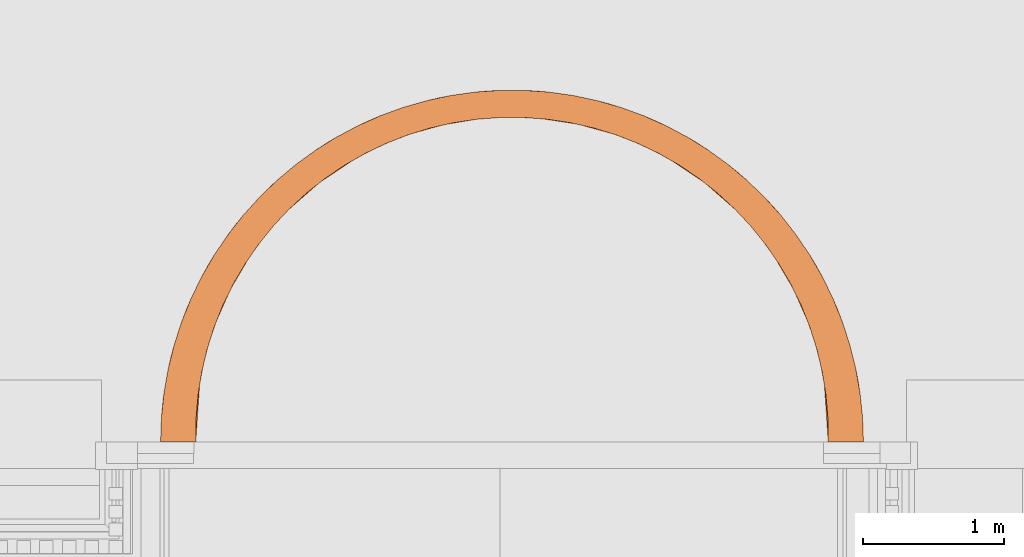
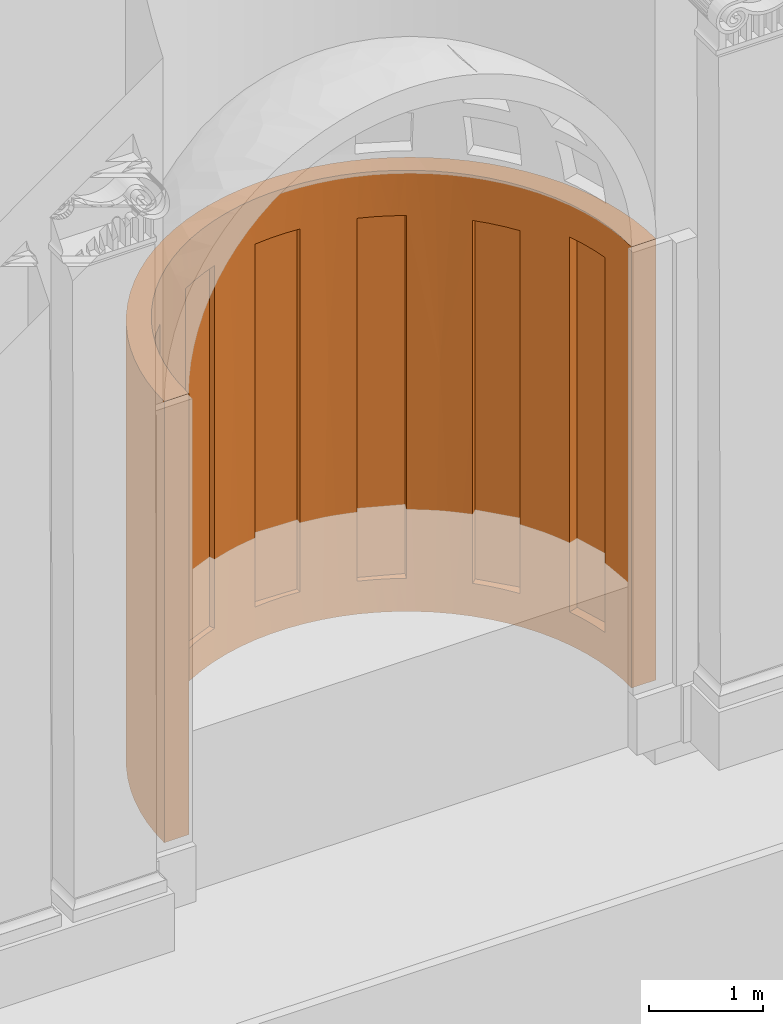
# One storey, part 31 of 44: 1 proxy.
"""IFC2X3 building model written with IfcOpenShell, lengths in metres."""

import ifcopenshell
import ifcopenshell.guid

model = None  # the IFC model being written
_history = None  # IfcOwnerHistory: only IFC2X3 demands one
_inside = {}  # id of a spatial element -> (the spatial element, [elements in it])
_under = {}  # id of a project, library or spatial element -> (it, [spatial elements below it])
_declared = {}  # id of a project -> (the project, [libraries it declares])
_typed = {}  # id of a type object -> (the type object, [elements of that type])
_made_of = {}  # id of a material, layer set ... -> (it, [elements and type objects made of it])


def new_model(schema):
    """Start an empty IFC model of exactly this schema.

    Asked for "IFC4X3", IfcOpenShell would pick the latest addendum, in which some entities
    have other attributes; the version numbers below select the first issue.
    IFC2X3 requires an IfcOwnerHistory on every rooted entity: one is made here for all.
    """
    global model, _history
    if schema == "IFC4X3":
        model = ifcopenshell.file(schema_version=(4, 3, 0, 0))
    else:
        model = ifcopenshell.file(schema=schema)
    _inside.clear()
    _under.clear()
    _declared.clear()
    _typed.clear()
    _made_of.clear()
    _history = None
    if model.schema == "IFC2X3":
        org = make("IfcOrganization", Name="unknown")
        user = make(
            "IfcPersonAndOrganization",
            ThePerson=make("IfcPerson", FamilyName="unknown"),
            TheOrganization=org,
        )
        app = make(
            "IfcApplication",
            ApplicationDeveloper=org,
            Version="unknown",
            ApplicationFullName="unknown",
            ApplicationIdentifier="unknown",
        )
        _history = make(
            "IfcOwnerHistory",
            OwningUser=user,
            OwningApplication=app,
            ChangeAction="ADDED",
            CreationDate=0,
        )
    return model


def make(cls, **values):
    """One entity of the class cls with the attributes given. An attribute that is None is left unset."""
    return model.create_entity(
        cls, **{name: value for name, value in values.items() if value is not None}
    )


def entity(cls, *values):
    """Any entity or typed value of the class cls, its attributes in the order of the schema. None: left unset."""
    e = model.create_entity(cls)
    for i, value in enumerate(values):
        if value is not None:
            e[i] = value
    return e


def rooted(cls, **values):
    """An entity with a GlobalId (a new one), such as an element, a storey or a relation."""
    return make(cls, GlobalId=ifcopenshell.guid.new(), OwnerHistory=_history, **values)


def si_unit(unit_type, name, prefix=None):
    """IfcSIUnit, for example si_unit("LENGTHUNIT", "METRE", prefix="MILLI")."""
    return make("IfcSIUnit", UnitType=unit_type, Prefix=prefix, Name=name)


def converted_unit(unit_type, name, factor, base, dimensions=None, offset=None):
    """IfcConversionBasedUnit, such as the inch: factor (a typed value) times the base unit."""
    return make(
        "IfcConversionBasedUnit"
        if offset is None
        else "IfcConversionBasedUnitWithOffset",
        ConversionOffset=offset,
        Dimensions=None
        if dimensions is None
        else entity("IfcDimensionalExponents", *dimensions),
        UnitType=unit_type,
        Name=name,
        ConversionFactor=make(
            "IfcMeasureWithUnit", ValueComponent=factor, UnitComponent=base
        ),
    )


def derived_unit(unit_type, elements):
    """IfcDerivedUnit: a product of units, each with its exponent."""
    return make(
        "IfcDerivedUnit",
        Elements=[
            make("IfcDerivedUnitElement", Unit=unit, Exponent=power)
            for unit, power in elements
        ],
        UnitType=unit_type,
    )


def assignment(units):
    """IfcUnitAssignment: the units of a project."""
    return None if units is None else make("IfcUnitAssignment", Units=units)


def point(xyz):
    """IfcCartesianPoint."""
    return None if xyz is None else make("IfcCartesianPoint", Coordinates=xyz)


def direction(xyz):
    """IfcDirection."""
    return None if xyz is None else make("IfcDirection", DirectionRatios=xyz)


def frame(location, z_axis=None, x_axis=None):
    """IfcAxis2Placement3D, a coordinate frame: its origin and axes. An axis left out is left unset."""
    return make(
        "IfcAxis2Placement3D",
        Location=point(location),
        Axis=direction(z_axis),
        RefDirection=direction(x_axis),
    )


def origin():
    """The frame at (0, 0, 0) with its axes left unset."""
    return frame((0.0, 0.0, 0.0))


def place(relative_to, where):
    """IfcLocalPlacement: puts the frame where relative to a parent placement (None: the world)."""
    return make(
        "IfcLocalPlacement", PlacementRelTo=relative_to, RelativePlacement=where
    )


def context(
    kind, dimensions, precision=None, world=None, true_north=None, identifier=None
):
    """IfcGeometricRepresentationContext, for example the 3D "Model" context."""
    return make(
        "IfcGeometricRepresentationContext",
        ContextIdentifier=identifier,
        ContextType=kind,
        CoordinateSpaceDimension=dimensions,
        Precision=precision,
        WorldCoordinateSystem=world,
        TrueNorth=true_north,
    )


def subcontext(parent, identifier, kind, view, scale=None):
    """IfcGeometricRepresentationSubContext, for example "Body" below "Model"."""
    return make(
        "IfcGeometricRepresentationSubContext",
        ContextIdentifier=identifier,
        ContextType=kind,
        ParentContext=parent,
        TargetScale=scale,
        TargetView=view,
    )


def project(units=None, contexts=None):
    """IfcProject with its units and contexts."""
    return rooted(
        "IfcProject",
        Name="project",
        RepresentationContexts=contexts,
        UnitsInContext=assignment(units),
    )


def spatial(cls, under=None, at=None, **own):
    """A site, building, storey or space (cls), placed at a placement, below another one or the project."""
    s = rooted(cls, ObjectPlacement=at, **own)
    if under is not None:
        _under.setdefault(under.id(), (under, []))[1].append(s)
    return s


def faces_of(points, faces, orient=None, outer=None):
    """IfcFace entities. A face is a list of loops; a loop is a list of indices into points, from 0.

    orient and outer hold one flag for each loop. By default every Orientation is true, the
    first loop of a face is its IfcFaceOuterBound and the others are IfcFaceBound.
    """
    made = []
    for i, loops in enumerate(faces):
        bounds = []
        for j, loop in enumerate(loops):
            is_outer = j == 0 if outer is None else outer[i][j]
            bounds.append(
                make(
                    "IfcFaceOuterBound" if is_outer else "IfcFaceBound",
                    Bound=make("IfcPolyLoop", Polygon=[points[k] for k in loop]),
                    Orientation=True if orient is None else orient[i][j],
                )
            )
        made.append(make("IfcFace", Bounds=bounds))
    return made


def faceted_brep(points, faces, orient=None, outer=None, voids=None):
    """IfcFacetedBrep: a solid bounded by flat faces; with voids (closed shells), ...WithVoids."""
    shared = [point(p) for p in points]
    hull = make("IfcClosedShell", CfsFaces=faces_of(shared, faces, orient, outer))
    if voids is None:
        return make("IfcFacetedBrep", Outer=hull)
    return make(
        "IfcFacetedBrepWithVoids",
        Outer=hull,
        Voids=[
            make(cls, CfsFaces=faces_of(shared, fs, o, b)) for cls, fs, o, b in voids
        ],
    )


def shape(context_of_items, identifier, shape_type, items):
    """IfcShapeRepresentation: the items that make up one representation, for example the "Body"."""
    return make(
        "IfcShapeRepresentation",
        ContextOfItems=context_of_items,
        RepresentationIdentifier=identifier,
        RepresentationType=shape_type,
        Items=items,
    )


def material(Name=None, Category=None):
    """IfcMaterial."""
    return make("IfcMaterial", Name=Name, Category=Category)


def made_of(thing, what):
    """Note that an element or type object is made of a material, layer set ...; save() writes the relation."""
    if what is not None:
        _made_of.setdefault(what.id(), (what, []))[1].append(thing)
    return thing


def element(
    cls,
    number,
    at=None,
    inside=None,
    cuts=None,
    type_object=None,
    material=None,
    context=None,
    identifier="Body",
    shape_type=None,
    held_by="IfcProductDefinitionShape",
    body=None,
    shapes=None,
    **own,
):
    """One element of the class cls, such as IfcWall. Its Tag is "e" and its number.

    at: its placement. inside: the storey or other place that contains it. cuts: it is an
    opening in that element (IfcRelVoidsElement). A single representation is given by context,
    identifier, shape_type and body (its items); several are given by shapes. held_by: the class
    of the entity that holds the representations. save() writes the other relations.
    """
    e = rooted(cls, Tag="e%d" % number, ObjectPlacement=at, **own)
    if body is not None:
        shapes = [shape(context, identifier, shape_type, body)]
    if shapes is not None:
        e.Representation = make(held_by, Representations=shapes)
    if inside is not None:
        _inside.setdefault(inside.id(), (inside, []))[1].append(e)
    if cuts is not None:
        rooted(
            "IfcRelVoidsElement", RelatingBuildingElement=cuts, RelatedOpeningElement=e
        )
    if type_object is not None:
        _typed.setdefault(type_object.id(), (type_object, []))[1].append(e)
    return made_of(e, material)


def aggregate(whole, parts):
    """IfcRelAggregates: a whole, such as a stair, and the parts it consists of."""
    return rooted("IfcRelAggregates", RelatingObject=whole, RelatedObjects=parts)


def save(model, path):
    """Write the relations noted so far, then the file.

    IfcRelAggregates (storeys below a building ...), IfcRelContainedInSpatialStructure (elements
    in a storey), IfcRelDefinesByType, IfcRelAssociatesMaterial and IfcRelDeclares: one each for
    every whole, place, type object, material and project.
    """
    for whole, parts in _under.values():
        aggregate(whole, parts)
    for where, things in _inside.values():
        rooted(
            "IfcRelContainedInSpatialStructure",
            RelatedElements=things,
            RelatingStructure=where,
        )
    for kind, things in _typed.values():
        rooted("IfcRelDefinesByType", RelatedObjects=things, RelatingType=kind)
    for what, things in _made_of.values():
        rooted("IfcRelAssociatesMaterial", RelatedObjects=things, RelatingMaterial=what)
    for by, libraries in _declared.values():
        rooted("IfcRelDeclares", RelatingContext=by, RelatedDefinitions=libraries)
    model.write(path)


model = new_model("IFC2X3")

# Units and contexts
model_context = context("Model", 3, precision=1e-05, world=origin(), true_north=direction((6.12303176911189e-17, 1.0)))
body_context = subcontext(model_context, "Body", "Model", "MODEL_VIEW")
ifc_project = project(units=[si_unit("LENGTHUNIT", "METRE"), si_unit("AREAUNIT", "SQUARE_METRE"), si_unit("VOLUMEUNIT", "CUBIC_METRE"), converted_unit("PLANEANGLEUNIT", "DEGREE", entity("IfcRatioMeasure", 0.0174532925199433), si_unit("PLANEANGLEUNIT", "RADIAN"), dimensions=[0, 0, 0, 0, 0, 0, 0]), si_unit("MASSUNIT", "GRAM", prefix="KILO"), derived_unit("MASSDENSITYUNIT", [(si_unit("MASSUNIT", "GRAM", prefix="KILO"), 1), (si_unit("LENGTHUNIT", "METRE"), -3)]), si_unit("TIMEUNIT", "SECOND"), si_unit("FREQUENCYUNIT", "HERTZ"), si_unit("THERMODYNAMICTEMPERATUREUNIT", "DEGREE_CELSIUS"), derived_unit("THERMALTRANSMITTANCEUNIT", [(si_unit("MASSUNIT", "GRAM", prefix="KILO"), 1), (si_unit("THERMODYNAMICTEMPERATUREUNIT", "KELVIN"), -1), (si_unit("TIMEUNIT", "SECOND"), -3)]), derived_unit("VOLUMETRICFLOWRATEUNIT", [(si_unit("LENGTHUNIT", "METRE"), 3), (si_unit("TIMEUNIT", "SECOND"), -1)]), si_unit("ELECTRICCURRENTUNIT", "AMPERE"), si_unit("ELECTRICVOLTAGEUNIT", "VOLT"), si_unit("POWERUNIT", "WATT"), si_unit("FORCEUNIT", "NEWTON", prefix="KILO"), si_unit("ILLUMINANCEUNIT", "LUX"), si_unit("LUMINOUSFLUXUNIT", "LUMEN"), si_unit("LUMINOUSINTENSITYUNIT", "CANDELA"), derived_unit("USERDEFINED", [(si_unit("MASSUNIT", "GRAM", prefix="KILO"), -1), (si_unit("LENGTHUNIT", "METRE"), -2), (si_unit("TIMEUNIT", "SECOND"), 3), (si_unit("LUMINOUSFLUXUNIT", "LUMEN"), 1)]), derived_unit("LINEARVELOCITYUNIT", [(si_unit("LENGTHUNIT", "METRE"), 1), (si_unit("TIMEUNIT", "SECOND"), -1)]), si_unit("PRESSUREUNIT", "PASCAL"), derived_unit("USERDEFINED", [(si_unit("LENGTHUNIT", "METRE"), -2), (si_unit("MASSUNIT", "GRAM", prefix="KILO"), 1), (si_unit("TIMEUNIT", "SECOND"), -2)])], contexts=[model_context])

# Site, building, storey
site_placement = place(None, origin())
site = spatial("IfcSite", under=ifc_project, at=site_placement, Name="Default", CompositionType="ELEMENT")
building_placement = place(site_placement, origin())
building = spatial("IfcBuilding", under=site, at=building_placement, CompositionType="ELEMENT")
storey_placement = place(building_placement, origin())
storey = spatial("IfcBuildingStorey", under=building, at=storey_placement, Name="Livello 1", CompositionType="ELEMENT", Elevation=0.0)

# Proxy
ifc_material = material(Name="Travertino")
proxy_placement = place(storey_placement, frame((-2.49178737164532, 1.4517774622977, 13.9835840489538)))
element("IfcBuildingElementProxy", 1, at=proxy_placement, inside=storey, material=ifc_material, Name="Stratigrafia", context=body_context, shape_type="Brep", body=[
    faceted_brep([(4.9957136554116, 0.176135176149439, 0.0), (5.00159122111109, 0.0015952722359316, 0.0), (4.75080310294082, 0.00159527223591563, 0.0), (4.74902433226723, 0.16870656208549, 0.0), (4.7348466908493, 0.335224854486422, 0.0), (4.72159754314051, 0.41772816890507, 0.0), (4.7083483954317, 0.500231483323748, 0.0), (4.6890120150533, 0.581523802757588, 0.0), (4.66967563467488, 0.662816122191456, 0.0), (4.64435869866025, 0.742448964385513, 0.0), (4.61904176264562, 0.822081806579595, 0.0), (4.58788394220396, 0.899615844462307, 0.0), (4.55672612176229, 0.977149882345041, 0.0), (4.48307250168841, 1.12716485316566, 0.0), (4.39848724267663, 1.27129910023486, 0.0), (4.35096211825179, 1.34002827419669, 0.0), (4.30343699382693, 1.40875744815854, 0.0), (4.25094156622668, 1.47376950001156, 0.0), (4.19844613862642, 1.5387815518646, 0.0), (4.08409390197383, 1.66065408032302, 0.0), (3.961011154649, 1.77370267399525, 0.0), (3.82987693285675, 1.87730365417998, 0.0), (3.69141469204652, 1.97088546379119, 0.0), (3.61890150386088, 2.01240864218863, 0.0), (3.54638831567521, 2.05393182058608, 0.0), (3.47099310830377, 2.08995819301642, 0.0), (3.3955979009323, 2.12598456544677, 0.0), (3.31773662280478, 2.1563153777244, 0.0), (3.23987534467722, 2.18664619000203, 0.0), (3.08007975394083, 2.23558202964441, 0.0), (2.91709270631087, 2.27252210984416, 0.0), (2.75181338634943, 2.29726263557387, 0.0), (2.66848350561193, 2.30346487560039, 0.0), (2.5851536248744, 2.30966711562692, 0.0), (2.50159324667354, 2.30966711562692, 0.0), (2.41803286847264, 2.30966711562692, 0.0), (2.33470298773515, 2.3034648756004, 0.0), (2.25137310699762, 2.29726263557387, 0.0), (2.08609378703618, 2.27252210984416, 0.0), (1.92310673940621, 2.23558202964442, 0.0), (1.76331114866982, 2.18664619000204, 0.0), (1.6854498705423, 2.15631537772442, 0.0), (1.60758859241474, 2.12598456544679, 0.0), (1.5321933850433, 2.08995819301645, 0.0), (1.45679817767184, 2.0539318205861, 0.0), (1.38428498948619, 2.01240864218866, 0.0), (1.31177180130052, 1.97088546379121, 0.0), (1.1733095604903, 1.87730365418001, 0.0), (1.04217533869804, 1.77370267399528, 0.0), (0.919092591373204, 1.66065408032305, 0.0), (0.804740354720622, 1.53878155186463, 0.0), (0.752244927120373, 1.47376950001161, 0.0), (0.699749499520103, 1.40875744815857, 0.0), (0.652224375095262, 1.34002827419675, 0.0), (0.604699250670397, 1.2712991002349, 0.0), (0.520113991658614, 1.12716485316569, 0.0), (0.446460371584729, 0.977149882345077, 0.0), (0.415302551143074, 0.899615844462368, 0.0), (0.384144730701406, 0.822081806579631, 0.0), (0.358827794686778, 0.742448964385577, 0.0), (0.333510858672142, 0.662816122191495, 0.0), (0.314174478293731, 0.581523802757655, 0.0), (0.294838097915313, 0.500231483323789, 0.0), (0.281588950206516, 0.417728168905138, 0.0), (0.268339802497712, 0.33522485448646, 0.0), (0.25416216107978, 0.16870656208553, 0.0), (0.252383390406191, 0.00159527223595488, 0.0), (0.0015952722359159, 0.00159527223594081, 0.0), (0.00747283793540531, 0.176135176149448, 0.0), (0.0255212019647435, 0.349838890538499, 0.0), (0.0556522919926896, 0.521858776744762, 0.0), (0.0977190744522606, 0.691355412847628, 0.0), (0.15151627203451, 0.857501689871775, 0.0), (0.216781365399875, 1.01948684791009, 0.0), (0.293195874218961, 1.17652043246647, 0.0), (0.380386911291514, 1.32783615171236, 0.0), (0.477929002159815, 1.47269561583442, 0.0), (0.585346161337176, 1.61039194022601, 0.0), (0.702114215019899, 1.74025319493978, 0.0), (0.827663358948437, 1.86164568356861, 0.0), (0.961380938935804, 1.97397703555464, 0.0), (1.10261444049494, 2.07669909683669, 0.0), (1.25067467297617, 2.16931060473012, 0.0), (1.40483913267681, 2.2513596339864, 0.0), (1.56435552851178, 2.32244580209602, 0.0), (1.72844545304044, 2.38222222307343, 0.0), (1.89630818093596, 2.43039720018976, 0.0), (2.06712457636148, 2.46673564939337, 0.0), (2.24006109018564, 2.49106024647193, 0.0), (2.41427382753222, 2.50325229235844, 0.0), (2.5889126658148, 2.50325229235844, 0.0), (2.76312540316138, 2.49106024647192, 0.0), (2.93606191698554, 2.46673564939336, 0.0), (3.10687831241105, 2.43039720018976, 0.0), (3.27474104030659, 2.38222222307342, 0.0), (3.43883096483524, 2.32244580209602, 0.0), (3.59834736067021, 2.25135963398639, 0.0), (3.75251182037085, 2.16931060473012, 0.0), (3.90057205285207, 2.07669909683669, 0.0), (4.04180555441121, 1.97397703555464, 0.0), (4.17552313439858, 1.8616456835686, 0.0), (4.30107227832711, 1.74025319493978, 0.0), (4.41784033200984, 1.610391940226, 0.0), (4.5252574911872, 1.47269561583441, 0.0), (4.6227995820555, 1.32783615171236, 0.0), (4.70999061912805, 1.17652043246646, 0.0), (4.78640512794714, 1.01948684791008, 0.0), (4.8516702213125, 0.857501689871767, 0.0), (4.90546741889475, 0.69135541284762, 0.0), (4.94753420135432, 0.521858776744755, 0.0), (4.97766529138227, 0.349838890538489, 0.0), (0.00747283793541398, 0.176135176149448, 4.74095236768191), (0.00159527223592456, 0.00159527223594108, 4.74095236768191), (0.2523833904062, 0.00159527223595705, 4.74095236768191), (0.254162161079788, 0.16870656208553, 4.74095236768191), (0.26833980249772, 0.33522485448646, 4.74095236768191), (0.281588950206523, 0.417728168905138, 4.74095236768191), (0.294838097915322, 0.500231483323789, 4.74095236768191), (0.314174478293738, 0.581523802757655, 4.74095236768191), (0.333510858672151, 0.662816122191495, 4.74095236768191), (0.358827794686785, 0.742448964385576, 4.74095236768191), (0.384144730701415, 0.822081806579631, 4.74095236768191), (0.446460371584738, 0.977149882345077, 4.74095236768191), (0.520113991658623, 1.12716485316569, 4.74095236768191), (0.604699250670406, 1.2712991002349, 4.74095236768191), (0.652224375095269, 1.34002827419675, 4.74095236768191), (0.699749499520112, 1.40875744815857, 4.74095236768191), (0.80474035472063, 1.53878155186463, 4.74095236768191), (0.919092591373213, 1.66065408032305, 4.74095236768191), (1.04217533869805, 1.77370267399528, 4.74095236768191), (1.17330956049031, 1.87730365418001, 4.74095236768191), (1.31177180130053, 1.97088546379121, 4.74095236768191), (1.3842849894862, 2.01240864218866, 4.74095236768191), (1.45679817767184, 2.0539318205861, 4.74095236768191), (1.53219338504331, 2.08995819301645, 4.74095236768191), (1.60758859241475, 2.12598456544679, 4.74095236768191), (1.6854498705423, 2.15631537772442, 4.74095236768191), (1.76331114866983, 2.18664619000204, 4.74095236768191), (1.92310673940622, 2.23558202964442, 4.74095236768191), (2.08609378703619, 2.27252210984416, 4.74095236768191), (2.25137310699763, 2.29726263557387, 4.74095236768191), (2.41803286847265, 2.30966711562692, 4.74095236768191), (2.58515362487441, 2.30966711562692, 4.74095236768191), (2.66848350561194, 2.30346487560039, 4.74095236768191), (2.75181338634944, 2.29726263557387, 4.74095236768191), (2.91709270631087, 2.27252210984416, 4.74095236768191), (3.08007975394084, 2.23558202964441, 4.7409523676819), (3.23987534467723, 2.18664619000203, 4.7409523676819), (3.31773662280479, 2.1563153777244, 4.74095236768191), (3.39559790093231, 2.12598456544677, 4.7409523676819), (3.47099310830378, 2.08995819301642, 4.7409523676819), (3.54638831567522, 2.05393182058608, 4.7409523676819), (3.61890150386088, 2.01240864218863, 4.7409523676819), (3.69141469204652, 1.97088546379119, 4.7409523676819), (3.82987693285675, 1.87730365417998, 4.7409523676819), (3.96101115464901, 1.77370267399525, 4.7409523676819), (4.08409390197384, 1.66065408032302, 4.7409523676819), (4.19844613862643, 1.5387815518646, 4.7409523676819), (4.30343699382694, 1.40875744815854, 4.7409523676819), (4.3509621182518, 1.34002827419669, 4.7409523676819), (4.39848724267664, 1.27129910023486, 4.7409523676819), (4.48307250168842, 1.12716485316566, 4.7409523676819), (4.5567261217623, 0.977149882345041, 4.7409523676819), (4.58788394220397, 0.899615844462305, 4.7409523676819), (4.61904176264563, 0.822081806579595, 4.7409523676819), (4.64435869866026, 0.742448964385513, 4.7409523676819), (4.66967563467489, 0.662816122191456, 4.7409523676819), (4.6890120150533, 0.581523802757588, 4.7409523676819), (4.70834839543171, 0.500231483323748, 4.7409523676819), (4.72159754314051, 0.417728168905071, 4.7409523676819), (4.73484669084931, 0.335224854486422, 4.7409523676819), (4.74902433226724, 0.16870656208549, 4.7409523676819), (4.75080310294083, 0.0015952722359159, 4.7409523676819), (5.0015912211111, 0.00159527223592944, 4.7409523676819), (4.99571365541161, 0.176135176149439, 4.7409523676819), (4.97766529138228, 0.349838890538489, 4.7409523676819), (4.94753420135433, 0.521858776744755, 4.7409523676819), (4.90546741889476, 0.69135541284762, 4.7409523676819), (4.85167022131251, 0.857501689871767, 4.7409523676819), (4.78640512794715, 1.01948684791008, 4.7409523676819), (4.70999061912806, 1.17652043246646, 4.7409523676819), (4.62279958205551, 1.32783615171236, 4.7409523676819), (4.52525749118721, 1.47269561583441, 4.7409523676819), (4.41784033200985, 1.610391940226, 4.7409523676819), (4.30107227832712, 1.74025319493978, 4.7409523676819), (4.17552313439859, 1.8616456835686, 4.7409523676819), (4.04180555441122, 1.97397703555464, 4.7409523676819), (3.90057205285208, 2.07669909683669, 4.7409523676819), (3.75251182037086, 2.16931060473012, 4.7409523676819), (3.59834736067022, 2.25135963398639, 4.7409523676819), (3.43883096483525, 2.32244580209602, 4.7409523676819), (3.2747410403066, 2.38222222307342, 4.7409523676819), (3.10687831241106, 2.43039720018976, 4.7409523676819), (2.93606191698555, 2.46673564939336, 4.74095236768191), (2.76312540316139, 2.49106024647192, 4.74095236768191), (2.58891266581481, 2.50325229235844, 4.74095236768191), (2.41427382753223, 2.50325229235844, 4.74095236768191), (2.24006109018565, 2.49106024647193, 4.74095236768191), (2.06712457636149, 2.46673564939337, 4.74095236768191), (1.89630818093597, 2.43039720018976, 4.74095236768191), (1.72844545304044, 2.38222222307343, 4.74095236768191), (1.56435552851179, 2.32244580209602, 4.74095236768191), (1.40483913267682, 2.2513596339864, 4.74095236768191), (1.25067467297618, 2.16931060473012, 4.74095236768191), (1.10261444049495, 2.07669909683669, 4.74095236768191), (0.961380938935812, 1.97397703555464, 4.74095236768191), (0.827663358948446, 1.86164568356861, 4.74095236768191), (0.702114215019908, 1.74025319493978, 4.74095236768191), (0.585346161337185, 1.61039194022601, 4.74095236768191), (0.477929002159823, 1.47269561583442, 4.74095236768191), (0.380386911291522, 1.32783615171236, 4.74095236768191), (0.293195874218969, 1.17652043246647, 4.74095236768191), (0.216781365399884, 1.01948684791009, 4.74095236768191), (0.151516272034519, 0.857501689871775, 4.74095236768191), (0.0977190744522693, 0.691355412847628, 4.74095236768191), (0.0556522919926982, 0.521858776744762, 4.74095236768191), (0.0255212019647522, 0.349838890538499, 4.74095236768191), (5.0015912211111, 0.00159527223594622, 2.99510013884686), (4.75080310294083, 0.00159527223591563, 3.31252170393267), (0.252383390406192, 0.00159527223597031, 1.42843066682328), (0.00159527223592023, 0.00159527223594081, 1.74585223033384), (4.72284944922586, 0.419717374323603, 2.36941973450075), (4.72284944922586, 0.419717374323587, 0.354627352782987), (4.72284944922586, 0.419717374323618, 4.38421211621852), (0.280337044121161, 0.419717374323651, 0.354627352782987), (0.294520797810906, 0.492330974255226, 0.354627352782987), (4.70866569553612, 0.492330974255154, 0.354627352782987), (0.308704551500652, 0.564944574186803, 0.354627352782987), (0.32763050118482, 0.636468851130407, 0.354627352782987), (0.393729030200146, 0.84824434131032, 0.354627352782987), (0.370142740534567, 0.778118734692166, 0.354627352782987), (4.63304375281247, 0.7781187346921, 0.354627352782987), (4.60945746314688, 0.848244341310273, 0.354627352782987), (0.717079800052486, 1.43162497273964, 0.354627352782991), (0.6738057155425, 1.37124778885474, 0.354627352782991), (0.811408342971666, 1.54640445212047, 0.354627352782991), (0.764244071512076, 1.48901471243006, 0.354627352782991), (4.37265486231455, 1.31087060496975, 0.354627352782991), (4.37265486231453, 1.31087060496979, 4.25454915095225), (4.50388827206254, 1.08753045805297, 2.84561125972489), (1.38035585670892, 2.01194394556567, 0.354627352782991), (1.44473175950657, 2.04621921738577, 0.354627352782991), (1.50910766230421, 2.08049448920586, 0.354627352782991), (1.57556912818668, 2.11052654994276, 0.354627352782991), (4.67555599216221, 0.636468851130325, 0.354627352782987), (0.294520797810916, 0.492330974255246, 4.25454915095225), (0.308704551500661, 0.564944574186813, 4.25454915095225), (4.69448194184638, 0.564944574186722, 0.354627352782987), (0.327630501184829, 0.636468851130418, 4.25454915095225), (0.346556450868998, 0.707993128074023, 4.25454915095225), (4.65663004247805, 0.707993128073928, 0.354627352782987), (3.86817883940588, 1.84865985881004, 2.64278178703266), (4.09008050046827, 1.65470861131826, 4.25454915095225), (4.238942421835, 1.48901471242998, 0.354627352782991), (4.19177815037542, 1.5464044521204, 0.354627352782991), (1.77856601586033, 2.19188387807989, 0.354627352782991), (1.71029830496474, 2.16622124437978, 0.354627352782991), (4.32938077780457, 1.37124778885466, 0.354627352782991), (4.28610669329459, 1.43162497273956, 0.354627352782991), (3.22462047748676, 2.19188387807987, 2.30458825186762), (2.96957426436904, 2.26201317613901, 2.82473220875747), (4.6094574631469, 0.848244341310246, 4.38421211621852), (4.60945746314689, 0.848244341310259, 2.36941973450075), (2.40153836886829, 2.3089935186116, 0.354627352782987), (4.09008050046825, 1.65470861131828, 0.354627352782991), (2.55492325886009, 2.3105871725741, 0.354627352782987), (3.62283063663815, 2.01194394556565, 4.25454915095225), (3.62283063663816, 2.01194394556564, 2.30458825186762), (2.70806028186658, 2.30172622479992, 0.354627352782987), (3.36115589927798, 2.14055861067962, 0.354627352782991), (4.09008050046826, 1.65470861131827, 2.30458825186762), (3.42761736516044, 2.11052654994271, 0.354627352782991), (3.4940788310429, 2.0804944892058, 0.354627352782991), (3.62283063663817, 2.01194394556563, 0.354627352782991), (2.70806028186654, 2.30172622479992, 4.25454915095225), (3.22462047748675, 2.19188387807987, 0.354627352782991), (3.29288818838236, 2.16622124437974, 0.354627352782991), (3.55845473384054, 2.04621921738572, 0.354627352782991), (0.280337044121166, 0.419717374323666, 2.30458825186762), (1.13500765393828, 1.84865985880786, 2.08260020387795), (4.70866569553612, 0.492330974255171, 4.38421211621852), (2.63149177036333, 2.30615669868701, 0.354627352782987), (3.22462047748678, 2.19188387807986, 4.25454915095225), (4.63304375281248, 0.778118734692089, 4.38421211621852), (4.65663004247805, 0.707993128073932, 4.38421211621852), (2.47823081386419, 2.30979034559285, 0.354627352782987), (1.64203059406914, 2.14055861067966, 0.354627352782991), (2.32507844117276, 2.30297309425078, 0.354627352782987), (0.498728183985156, 1.08641757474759, 1.87406281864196), (4.69448194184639, 0.564944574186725, 4.38421211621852), (4.37265486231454, 1.31087060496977, 2.30458825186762), (4.28610669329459, 1.43162497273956, 4.25454915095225), (4.67555599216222, 0.636468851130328, 4.38421211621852), (0.393729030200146, 0.848244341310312, 2.30458825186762), (4.19177815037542, 1.5464044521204, 4.25454915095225), (0.913105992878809, 1.65470861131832, 2.30458825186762), (1.77856601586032, 2.19188387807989, 4.25454915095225), (2.01077268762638, 2.2570323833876, 2.97929919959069), (3.4940788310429, 2.08049448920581, 4.25454915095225), (3.55845473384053, 2.04621921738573, 4.25454915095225), (2.70806028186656, 2.30172622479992, 2.30458825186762), (1.44473175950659, 2.04621921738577, 4.25454915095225), (1.50910766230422, 2.08049448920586, 4.25454915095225), (3.36115589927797, 2.14055861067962, 4.25454915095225), (2.55492325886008, 2.3105871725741, 4.25454915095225), (1.77856601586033, 2.19188387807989, 2.30458825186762), (2.24861851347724, 2.29695266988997, 0.354627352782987), (1.38035585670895, 2.01194394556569, 4.25454915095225), (2.24861851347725, 2.29695266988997, 2.30458825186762), (0.913105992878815, 1.65470861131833, 0.354627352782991), (0.280337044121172, 0.419717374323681, 4.25454915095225), (1.38035585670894, 2.01194394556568, 2.30458825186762), (1.64203059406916, 2.14055861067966, 4.25454915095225), (0.913105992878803, 1.65470861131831, 4.25454915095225), (0.630531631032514, 1.31087060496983, 0.354627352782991), (0.630531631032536, 1.31087060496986, 4.25454915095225), (0.346556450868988, 0.707993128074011, 0.354627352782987), (0.630531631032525, 1.31087060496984, 2.30458825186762), (2.24861851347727, 2.29695266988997, 4.25454915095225), (2.40153836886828, 2.3089935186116, 4.25454915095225), (0.811408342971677, 1.54640445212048, 4.25454915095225), (0.717079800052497, 1.43162497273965, 4.25454915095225), (0.393729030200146, 0.848244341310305, 4.25454915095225), (0.182733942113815, 0.939064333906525, 2.37047618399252), (0.335469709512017, 1.25293987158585, 2.37047618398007), (0.530434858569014, 1.54248202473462, 2.37047618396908), (0.0195859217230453, 0.304176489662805, 2.17603113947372), (0.0752051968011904, 0.606974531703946, 2.37047618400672), (1.48397642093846, 2.28829603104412, 2.37047618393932), (1.72844545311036, 2.38222222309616, 1.91834991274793), (1.98139897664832, 2.45005843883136, 2.37047618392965), (2.32706096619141, 2.49867794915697, 2.37047618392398), (0.763828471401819, 1.8020460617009, 2.37047618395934), (0.961380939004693, 1.97397703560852, 1.91834991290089), (1.17583563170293, 2.12429809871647, 2.37047618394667), (2.67612552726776, 2.49867794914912, 2.37047618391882), (3.51921007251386, 2.2882960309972, 2.37047618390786), (3.82735086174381, 2.1242980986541, 2.37047618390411), (4.10964551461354, 1.91897933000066, 2.37047618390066), (2.93606191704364, 2.46673564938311, 1.91834991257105), (3.19123046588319, 2.40777592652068, 2.37047618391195), (4.82045255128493, 0.939064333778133, 2.37047618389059), (4.52525749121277, 1.47269561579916, 1.91834991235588), (4.66771678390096, 1.25293987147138, 2.37047618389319), (4.90546741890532, 0.691355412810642, 1.91834991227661), (4.9641022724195, 0.436112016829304, 2.37047618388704), (4.36059059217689, 1.67634249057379, 2.3704761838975), (4.14383662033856, 1.70354247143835, 0.354627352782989), (4.44272632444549, 1.37452586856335, 0.354627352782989), (4.44272632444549, 1.37452586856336, 4.25454915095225), (4.14383662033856, 1.70354247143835, 4.25454915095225), (3.65142552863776, 2.08345897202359, 0.354627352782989), (3.24607331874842, 2.24553683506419, 0.354627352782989), (2.71010729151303, 2.35340636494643, 0.354627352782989), (2.25157398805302, 2.37156850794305, 0.354627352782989), (0.859349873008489, 1.70354247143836, 0.354627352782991), (0.560460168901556, 1.37452586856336, 0.354627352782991), (1.75711317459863, 2.2455368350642, 0.354627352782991), (1.35176096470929, 2.0834589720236, 0.354627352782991), (0.300305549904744, 0.876346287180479, 0.354627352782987), (0.172690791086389, 0.452097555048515, 0.354627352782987), (4.83049570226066, 0.452097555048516, 0.354627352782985), (4.7028809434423, 0.876346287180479, 0.354627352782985), (3.24607331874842, 2.24553683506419, 4.25454915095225), (3.65142552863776, 2.08345897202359, 4.25454915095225), (2.25157398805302, 2.37156850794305, 4.25454915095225), (2.71010729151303, 2.35340636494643, 4.25454915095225), (0.56046016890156, 1.37452586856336, 4.25454915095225), (0.859349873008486, 1.70354247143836, 4.25454915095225), (1.35176096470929, 2.0834589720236, 4.25454915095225), (1.75711317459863, 2.2455368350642, 4.25454915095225), (0.172690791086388, 0.452097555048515, 4.25454915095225), (0.300305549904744, 0.876346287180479, 4.25454915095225), (4.83049570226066, 0.452097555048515, 4.38421211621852), (4.7028809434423, 0.876346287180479, 4.38421211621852)], [[[0, 1, 2, 3, 4, 5, 6, 7, 8, 9, 10, 11, 12, 13, 14, 15, 16, 17, 18, 19, 20, 21, 22, 23, 24, 25, 26, 27, 28, 29, 30, 31, 32, 33, 34, 35, 36, 37, 38, 39, 40, 41, 42, 43, 44, 45, 46, 47, 48, 49, 50, 51, 52, 53, 54, 55, 56, 57, 58, 59, 60, 61, 62, 63, 64, 65, 66, 67, 68, 69, 70, 71, 72, 73, 74, 75, 76, 77, 78, 79, 80, 81, 82, 83, 84, 85, 86, 87, 88, 89, 90, 91, 92, 93, 94, 95, 96, 97, 98, 99, 100, 101, 102, 103, 104, 105, 106, 107, 108, 109, 110]], [[111, 112, 113, 114, 115, 116, 117, 118, 119, 120, 121, 122, 123, 124, 125, 126, 127, 128, 129, 130, 131, 132, 133, 134, 135, 136, 137, 138, 139, 140, 141, 142, 143, 144, 145, 146, 147, 148, 149, 150, 151, 152, 153, 154, 155, 156, 157, 158, 159, 160, 161, 162, 163, 164, 165, 166, 167, 168, 169, 170, 171, 172, 173, 174, 175, 176, 177, 178, 179, 180, 181, 182, 183, 184, 185, 186, 187, 188, 189, 190, 191, 192, 193, 194, 195, 196, 197, 198, 199, 200, 201, 202, 203, 204, 205, 206, 207, 208, 209, 210, 211, 212, 213, 214, 215, 216]], [[1, 217, 173, 172, 218, 2]], [[66, 219, 113, 112, 220, 67]], [[221, 222, 4]], [[221, 170, 223]], [[224, 63, 225]], [[5, 226, 6]], [[227, 61, 228]], [[229, 230, 58]], [[170, 221, 171]], [[10, 231, 232]], [[57, 56, 229, 58]], [[233, 234, 52]], [[235, 236, 50]], [[237, 14, 13]], [[161, 238, 239]], [[240, 45, 241]], [[232, 12, 11, 10]], [[242, 43, 243]], [[7, 244, 8]], [[245, 246, 117]], [[247, 244, 7]], [[248, 249, 119]], [[231, 9, 250]], [[226, 5, 222]], [[155, 251, 252]], [[18, 253, 254]], [[255, 256, 40]], [[15, 237, 257]], [[258, 253, 17]], [[29, 259, 260]], [[236, 233, 51]], [[254, 19, 18]], [[261, 239, 262]], [[16, 257, 258]], [[162, 239, 261]], [[36, 35, 263]], [[171, 221, 218]], [[264, 20, 19]], [[34, 33, 265]], [[251, 266, 267]], [[32, 31, 268]], [[27, 26, 269]], [[264, 270, 20]], [[25, 271, 26]], [[25, 24, 272]], [[23, 22, 273]], [[17, 16, 258]], [[145, 274, 260]], [[275, 29, 28]], [[15, 14, 237]], [[28, 276, 275]], [[23, 277, 24]], [[22, 267, 273]], [[273, 277, 23]], [[278, 64, 224]], [[271, 25, 272]], [[279, 46, 240]], [[168, 280, 169]], [[33, 281, 265]], [[9, 8, 250]], [[282, 260, 259]], [[268, 281, 32]], [[283, 284, 165]], [[146, 260, 282]], [[35, 285, 263]], [[276, 27, 269]], [[30, 268, 31]], [[256, 286, 41]], [[7, 6, 247]], [[254, 264, 19]], [[5, 4, 222]], [[36, 287, 37]], [[172, 171, 218]], [[3, 2, 218]], [[27, 276, 28]], [[55, 288, 56]], [[29, 260, 30]], [[289, 280, 168]], [[218, 221, 3]], [[290, 237, 13]], [[290, 239, 238]], [[277, 272, 24]], [[291, 159, 158]], [[165, 164, 283]], [[284, 292, 166]], [[288, 229, 56]], [[17, 253, 18]], [[288, 293, 229]], [[291, 157, 294]], [[154, 251, 155]], [[169, 223, 170]], [[47, 279, 48]], [[167, 289, 168]], [[284, 166, 165]], [[20, 270, 251]], [[164, 163, 162, 261]], [[12, 232, 262]], [[238, 161, 160]], [[238, 160, 159]], [[158, 157, 291]], [[129, 295, 279]], [[157, 156, 294]], [[122, 293, 288]], [[138, 296, 297]], [[42, 243, 43]], [[252, 156, 155]], [[251, 270, 252]], [[294, 156, 252]], [[298, 299, 151]], [[21, 267, 22]], [[47, 46, 279]], [[219, 65, 278]], [[300, 268, 30]], [[147, 282, 148]], [[301, 302, 133]], [[303, 298, 149]], [[153, 266, 251]], [[142, 304, 143]], [[21, 251, 267]], [[152, 266, 153]], [[298, 151, 150, 149]], [[149, 148, 303]], [[146, 282, 147]], [[275, 259, 29]], [[274, 145, 144]], [[144, 143, 274]], [[142, 141, 304]], [[297, 305, 39]], [[114, 113, 219]], [[66, 65, 219]], [[12, 262, 239]], [[37, 287, 306]], [[223, 169, 280]], [[39, 305, 255]], [[289, 167, 292]], [[261, 283, 164]], [[306, 38, 37]], [[286, 42, 41]], [[238, 159, 291]], [[266, 152, 299]], [[279, 307, 130]], [[240, 46, 45]], [[242, 44, 43]], [[303, 148, 282]], [[255, 40, 39]], [[166, 292, 167]], [[308, 38, 306]], [[62, 225, 63]], [[256, 41, 40]], [[287, 36, 263]], [[139, 138, 297]], [[309, 49, 48]], [[274, 143, 304]], [[44, 242, 241]], [[114, 278, 310]], [[130, 129, 279]], [[226, 247, 6]], [[309, 235, 49]], [[42, 286, 243]], [[240, 311, 307, 279]], [[136, 135, 312]], [[295, 129, 313]], [[295, 309, 48]], [[233, 52, 51]], [[134, 133, 302, 135]], [[314, 55, 54]], [[132, 131, 307]], [[125, 124, 315]], [[314, 54, 53]], [[120, 119, 249]], [[118, 117, 246]], [[116, 115, 310]], [[224, 64, 63]], [[227, 62, 61]], [[15, 257, 16]], [[316, 60, 59]], [[44, 241, 45]], [[288, 314, 317]], [[296, 305, 297]], [[52, 234, 53]], [[154, 153, 251]], [[308, 297, 38]], [[236, 51, 50]], [[9, 231, 10]], [[300, 260, 274]], [[34, 285, 35]], [[60, 316, 228]], [[227, 225, 62]], [[60, 228, 61]], [[279, 295, 48]], [[230, 59, 58]], [[219, 278, 114]], [[230, 316, 59]], [[288, 123, 122]], [[49, 235, 50]], [[161, 239, 162]], [[244, 250, 8]], [[140, 318, 319]], [[234, 314, 53]], [[319, 141, 140]], [[139, 318, 140]], [[319, 304, 141]], [[297, 39, 38]], [[318, 139, 297]], [[55, 314, 288]], [[221, 4, 3]], [[132, 307, 301]], [[302, 312, 135]], [[151, 299, 152]], [[136, 312, 296]], [[297, 308, 318]], [[137, 296, 138]], [[136, 296, 137]], [[133, 132, 301]], [[307, 131, 130]], [[129, 128, 313]], [[128, 320, 313]], [[127, 321, 320]], [[300, 30, 260]], [[321, 127, 126]], [[321, 125, 315]], [[128, 127, 320]], [[126, 125, 321]], [[20, 251, 21]], [[32, 281, 33]], [[317, 315, 123]], [[118, 246, 248]], [[120, 249, 322]], [[12, 239, 13]], [[317, 123, 288]], [[290, 13, 239]], [[116, 310, 245]], [[123, 315, 124]], [[122, 322, 293]], [[322, 122, 121]], [[322, 121, 120]], [[119, 118, 248]], [[116, 245, 117]], [[145, 260, 146]], [[115, 114, 310]], [[65, 64, 278]], [[271, 269, 26]], [[265, 285, 34]], [[212, 323, 213]], [[210, 324, 211]], [[211, 324, 323, 212]], [[324, 210, 209, 325]], [[111, 216, 326]], [[68, 220, 326]], [[327, 215, 214]], [[327, 326, 215]], [[327, 214, 213, 323]], [[325, 209, 208]], [[328, 202, 201]], [[199, 329, 200]], [[85, 329, 86]], [[330, 199, 198]], [[330, 329, 199]], [[197, 331, 330, 198]], [[332, 207, 206]], [[333, 205, 204]], [[81, 80, 333]], [[204, 203, 334]], [[333, 204, 334]], [[202, 328, 334, 203]], [[325, 208, 207, 332]], [[331, 197, 196]], [[73, 323, 324, 74]], [[75, 324, 325, 76]], [[70, 327, 71]], [[76, 325, 77]], [[112, 111, 220]], [[68, 67, 220]], [[72, 323, 73]], [[74, 324, 75]], [[70, 69, 326]], [[323, 72, 71, 327]], [[68, 326, 69]], [[326, 327, 70]], [[201, 200, 329]], [[329, 85, 84]], [[81, 334, 82]], [[328, 329, 84]], [[331, 196, 195, 335]], [[336, 189, 188, 337]], [[87, 330, 331, 88]], [[88, 331, 89]], [[95, 336, 96]], [[325, 332, 78, 77]], [[332, 333, 79]], [[86, 330, 87]], [[78, 332, 79]], [[328, 83, 82, 334]], [[206, 205, 333]], [[80, 79, 333]], [[83, 328, 84]], [[337, 187, 186, 338]], [[90, 89, 331, 335]], [[189, 336, 190]], [[187, 337, 188]], [[335, 195, 194]], [[192, 339, 193]], [[93, 92, 339]], [[340, 192, 191]], [[340, 339, 192]], [[340, 191, 190, 336]], [[338, 186, 185]], [[341, 179, 178]], [[104, 342, 343]], [[176, 344, 177]], [[108, 344, 109]], [[345, 176, 175]], [[109, 344, 345]], [[344, 341, 178]], [[345, 344, 176]], [[342, 346, 183]], [[217, 345, 174]], [[346, 184, 183]], [[342, 182, 181]], [[104, 103, 342]], [[181, 180, 343]], [[342, 181, 343]], [[179, 341, 343, 180]], [[338, 185, 184, 346]], [[217, 1, 0]], [[174, 173, 217]], [[99, 338, 100]], [[96, 336, 337, 97]], [[106, 341, 107]], [[98, 337, 338, 99]], [[178, 177, 344]], [[344, 108, 107]], [[345, 175, 174]], [[194, 193, 339]], [[92, 91, 339]], [[335, 339, 91]], [[90, 335, 91]], [[93, 340, 94]], [[336, 95, 94, 340]], [[109, 345, 110]], [[215, 326, 216]], [[341, 344, 107]], [[329, 328, 201]], [[333, 332, 206]], [[110, 345, 0]], [[111, 326, 220]], [[86, 329, 330]], [[81, 333, 334]], [[101, 346, 102]], [[338, 346, 101, 100]], [[346, 342, 102]], [[217, 0, 345]], [[341, 106, 105, 343]], [[104, 343, 105]], [[103, 102, 342]], [[183, 182, 342]], [[97, 337, 98]], [[93, 339, 340]], [[339, 335, 194]], [[347, 348, 349, 350]], [[238, 349, 348, 237, 290]], [[254, 253, 258, 257, 237, 348, 347, 264]], [[269, 271, 272, 277, 273, 351, 352, 275, 276]], [[265, 281, 268, 353, 354, 306, 287, 263, 285]], [[235, 309, 355, 356, 314, 234, 233, 236]], [[286, 256, 255, 357, 358, 240, 241, 242, 243]], [[316, 230, 229, 359, 360, 224, 225, 227, 228]], [[250, 244, 247, 226, 222, 361, 362, 232, 231]], [[264, 347, 350, 252, 270]], [[294, 252, 350, 349, 238, 291]], [[303, 282, 363, 364, 266, 299, 298]], [[304, 319, 318, 365, 366, 274]], [[320, 321, 315, 367, 368, 313]], [[312, 302, 301, 307, 369, 370, 296]], [[249, 248, 246, 245, 310, 371, 372, 322]], [[352, 351, 364, 363]], [[273, 267, 266, 364, 351]], [[275, 352, 363, 282, 259]], [[354, 353, 366, 365]], [[274, 366, 353, 268, 300]], [[306, 354, 365, 318, 308]], [[368, 367, 356, 355]], [[314, 356, 367, 315, 317]], [[313, 368, 355, 309, 295]], [[357, 370, 369, 358]], [[240, 358, 369, 307, 311]], [[255, 305, 296, 370, 357]], [[372, 371, 360, 359]], [[310, 278, 224, 360, 371]], [[322, 372, 359, 229, 293]], [[362, 361, 373, 374]], [[223, 373, 361, 222, 221]], [[232, 362, 374, 261, 262]], [[284, 283, 261, 374, 373, 223, 280, 289, 292]]]),
])

save(model, "model.ifc")
